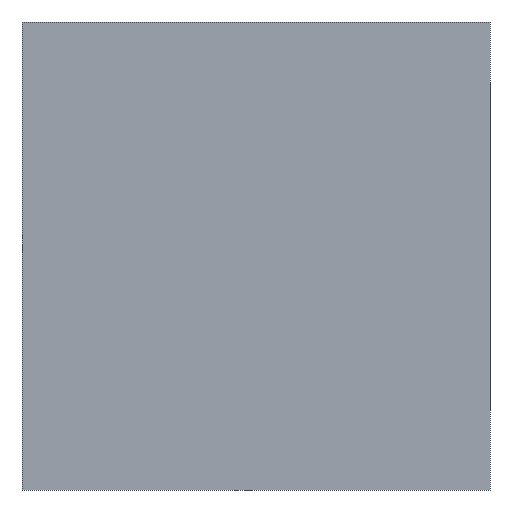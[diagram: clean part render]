
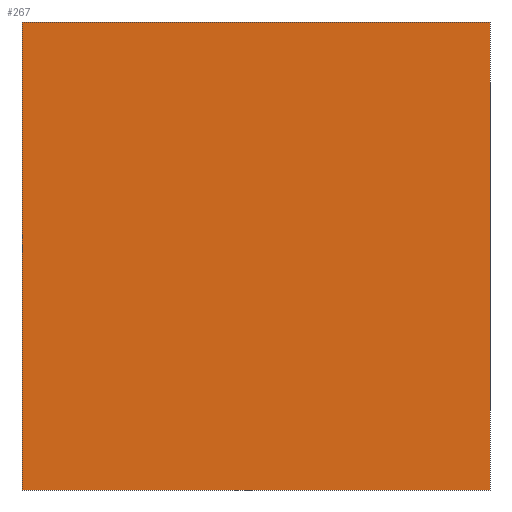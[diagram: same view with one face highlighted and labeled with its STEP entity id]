
A CAD part, front view. The second image highlights one B-rep face of the part: STEP entity #267.
In plain terms, the highlighted planar face has unit normal (0, -1, 0).
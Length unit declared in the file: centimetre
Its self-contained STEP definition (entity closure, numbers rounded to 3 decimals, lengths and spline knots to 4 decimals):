
#2 = VERTEX_POINT ( 'NONE', #385 ) ;
#76 = CARTESIAN_POINT ( 'NONE',  ( 0., 0., 1000. ) ) ;
#81 = LINE ( 'NONE', #439, #430 ) ;
#137 = CARTESIAN_POINT ( 'NONE',  ( 1000., 0., 0. ) ) ;
#173 = VECTOR ( 'NONE', #373, 100. ) ;
#248 = LINE ( 'NONE', #487, #636 ) ;
#249 = ORIENTED_EDGE ( 'NONE', *, *, #504, .T. ) ;
#252 = CARTESIAN_POINT ( 'NONE',  ( 1000., 0., 1000. ) ) ;
#257 = EDGE_CURVE ( 'NONE', #665, #2, #248, .T. ) ;
#258 = ORIENTED_EDGE ( 'NONE', *, *, #257, .F. ) ;
#267 = ADVANCED_FACE ( 'NONE', ( #745 ), #621, .F. ) ;
#275 = EDGE_CURVE ( 'NONE', #665, #794, #677, .T. ) ;
#304 = DIRECTION ( 'NONE',  ( 1., 0., 0. ) ) ;
#313 = DIRECTION ( 'NONE',  ( 0., 0., -1. ) ) ;
#347 = CARTESIAN_POINT ( 'NONE',  ( 0., 0., 1000. ) ) ;
#373 = DIRECTION ( 'NONE',  ( 0., 0., -1. ) ) ;
#385 = CARTESIAN_POINT ( 'NONE',  ( 1000., 0., 1000. ) ) ;
#390 = EDGE_CURVE ( 'NONE', #2, #434, #544, .T. ) ;
#430 = VECTOR ( 'NONE', #568, 100. ) ;
#434 = VERTEX_POINT ( 'NONE', #137 ) ;
#437 = DIRECTION ( 'NONE',  ( 0., 0., 1. ) ) ;
#439 = CARTESIAN_POINT ( 'NONE',  ( 0., 0., 0. ) ) ;
#441 = DIRECTION ( 'NONE',  ( 0., 1., 0. ) ) ;
#477 = VECTOR ( 'NONE', #313, 100. ) ;
#487 = CARTESIAN_POINT ( 'NONE',  ( 0., 0., 1000. ) ) ;
#491 = CARTESIAN_POINT ( 'NONE',  ( 0., 0., 1000. ) ) ;
#503 = ORIENTED_EDGE ( 'NONE', *, *, #390, .F. ) ;
#504 = EDGE_CURVE ( 'NONE', #794, #434, #81, .T. ) ;
#544 = LINE ( 'NONE', #252, #477 ) ;
#568 = DIRECTION ( 'NONE',  ( 1., 0., 0. ) ) ;
#597 = CARTESIAN_POINT ( 'NONE',  ( 0., 0., 0. ) ) ;
#602 = EDGE_LOOP ( 'NONE', ( #249, #503, #258, #620 ) ) ;
#620 = ORIENTED_EDGE ( 'NONE', *, *, #275, .T. ) ;
#621 = PLANE ( 'NONE',  #722 ) ;
#636 = VECTOR ( 'NONE', #304, 100. ) ;
#665 = VERTEX_POINT ( 'NONE', #347 ) ;
#677 = LINE ( 'NONE', #76, #173 ) ;
#722 = AXIS2_PLACEMENT_3D ( 'NONE', #491, #441, #437 ) ;
#745 = FACE_OUTER_BOUND ( 'NONE', #602, .T. ) ;
#794 = VERTEX_POINT ( 'NONE', #597 ) ;
